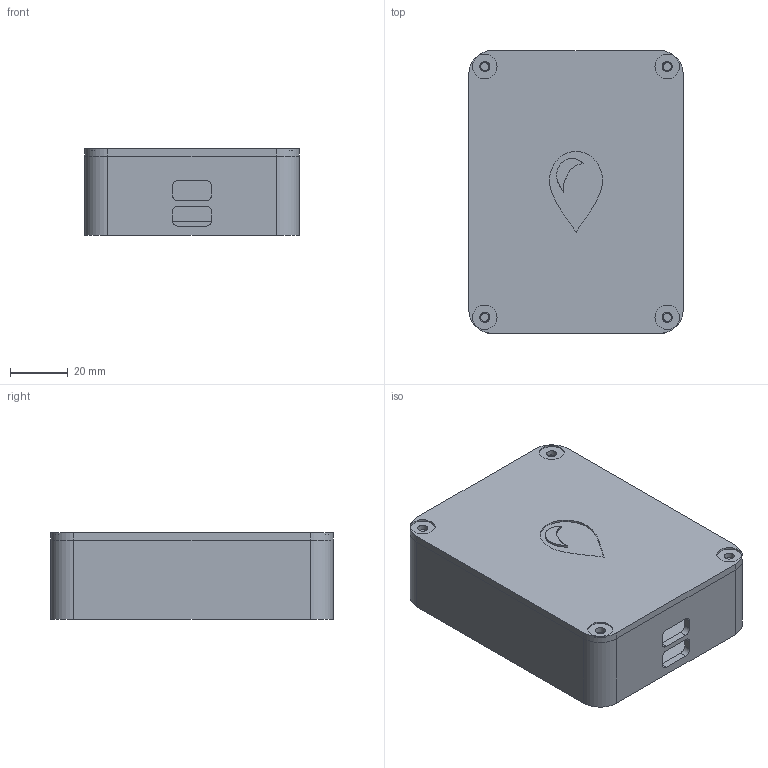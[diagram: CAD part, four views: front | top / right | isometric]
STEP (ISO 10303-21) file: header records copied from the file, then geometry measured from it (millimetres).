
FILE_DESCRIPTION(('Open CASCADE Model'),'2;1');
FILE_NAME('Open CASCADE Shape Model','2026-09-16T17:21:01',('Author'),( 'Open CASCADE'),'Open CASCADE STEP processor 7.9','Open CASCADE 7.9' ,'Unknown');
FILE_SCHEMA(('AUTOMOTIVE_DESIGN { 1 0 10303 214 1 1 1 1 }'));
Length unit declared in the file: millimetre
Products named in the file (3): Open CASCADE STEP translator 7.9 5; Open CASCADE STEP translator 7.9 5.1; Open CASCADE STEP translator 7.9 5.2
Assembly tree (2 placements, depth 2):
  Open CASCADE STEP translator 7.9 5
    Open CASCADE STEP translator 7.9 5.1
    Open CASCADE STEP translator 7.9 5.2
Bounding box: 74.21 x 97.9 x 29.9 mm (x, y, z)
Volume: 59417.2 mm3; surface area: 50402.7 mm2
Topology: 2 solids, 2 shells, 278 faces, 765 edges, 510 vertices
Faces by surface type: plane 233, cylinder 45
Full cylindrical faces by diameter (mm): 2.8 x4, 3.5 x4, 8.5 x5
Entity records: 18810 total; most frequent: CARTESIAN_POINT 3410, DIRECTION 2833, LINE 2043, VECTOR 2043, ORIENTED_EDGE 1530, PCURVE 1530, DEFINITIONAL_REPRESENTATION 1530, EDGE_CURVE 765
